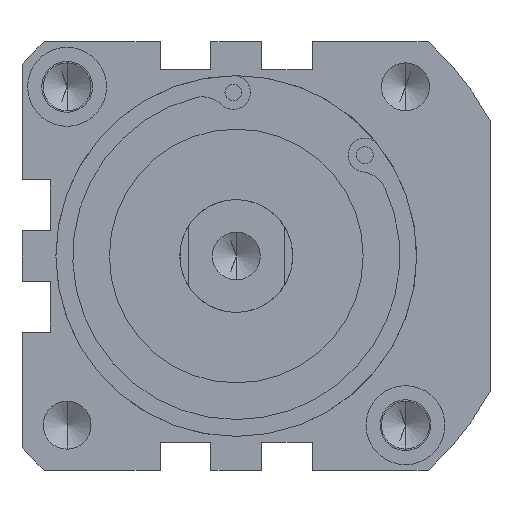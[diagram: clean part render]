
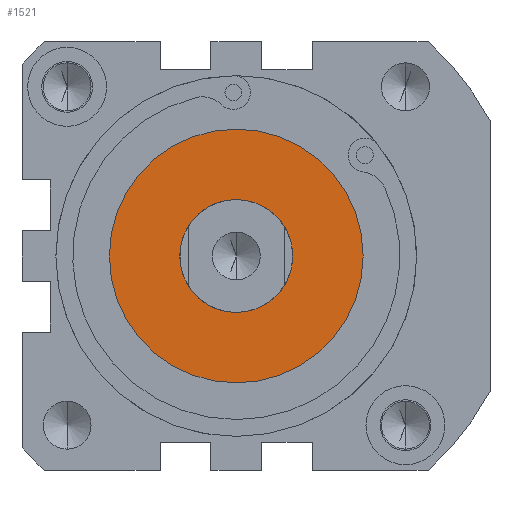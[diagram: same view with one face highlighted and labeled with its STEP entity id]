
A CAD part, front view. The second image highlights one B-rep face of the part: STEP entity #1521.
In plain terms, the highlighted planar face has unit normal (0, -1, 0) as drawn and (0, 1, 0) by its records, which use the part's own axes.
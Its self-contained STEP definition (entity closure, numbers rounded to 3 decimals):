
#5 = CARTESIAN_POINT ( 'NONE',  ( 0., 0., -10. ) ) ;
#156 = ORIENTED_EDGE ( 'NONE', *, *, #3083, .T. ) ;
#160 = CARTESIAN_POINT ( 'NONE',  ( 0., 0., 0. ) ) ;
#383 = DIRECTION ( 'NONE',  ( 0., 1., 0. ) ) ;
#421 = DIRECTION ( 'NONE',  ( 0., 0., 1. ) ) ;
#465 = EDGE_CURVE ( 'NONE', #807, #1816, #3353, .T. ) ;
#495 = CIRCLE ( 'NONE', #1092, 10. ) ;
#509 = CARTESIAN_POINT ( 'NONE',  ( 0., 0., 0. ) ) ;
#588 = CARTESIAN_POINT ( 'NONE',  ( 0., 0., -22.5 ) ) ;
#632 = CARTESIAN_POINT ( 'NONE',  ( 0., 0., 0. ) ) ;
#665 = EDGE_LOOP ( 'NONE', ( #3508, #1481 ) ) ;
#806 = DIRECTION ( 'NONE',  ( 0., 0., 1. ) ) ;
#807 = VERTEX_POINT ( 'NONE', #917 ) ;
#856 = FACE_OUTER_BOUND ( 'NONE', #1085, .T. ) ;
#917 = CARTESIAN_POINT ( 'NONE',  ( 0., 0., 10. ) ) ;
#974 = ORIENTED_EDGE ( 'NONE', *, *, #1952, .T. ) ;
#1000 = CIRCLE ( 'NONE', #1478, 22.5 ) ;
#1053 = CARTESIAN_POINT ( 'NONE',  ( 0., 0., 0. ) ) ;
#1085 = EDGE_LOOP ( 'NONE', ( #974, #156 ) ) ;
#1092 = AXIS2_PLACEMENT_3D ( 'NONE', #1407, #3271, #1922 ) ;
#1322 = AXIS2_PLACEMENT_3D ( 'NONE', #160, #2053, #421 ) ;
#1400 = CARTESIAN_POINT ( 'NONE',  ( 0., 0., 22.5 ) ) ;
#1407 = CARTESIAN_POINT ( 'NONE',  ( 0., 0., 0. ) ) ;
#1434 = DIRECTION ( 'NONE',  ( 0., 0., 1. ) ) ;
#1478 = AXIS2_PLACEMENT_3D ( 'NONE', #632, #383, #1434 ) ;
#1481 = ORIENTED_EDGE ( 'NONE', *, *, #465, .F. ) ;
#1521 = ADVANCED_FACE ( 'NONE', ( #856, #3443 ), #1589, .T. ) ;
#1570 = DIRECTION ( 'NONE',  ( 0., 1., 0. ) ) ;
#1589 = PLANE ( 'NONE',  #1764 ) ;
#1764 = AXIS2_PLACEMENT_3D ( 'NONE', #509, #1570, #3154 ) ;
#1816 = VERTEX_POINT ( 'NONE', #5 ) ;
#1922 = DIRECTION ( 'NONE',  ( 0., 0., 1. ) ) ;
#1952 = EDGE_CURVE ( 'NONE', #3020, #3036, #2411, .T. ) ;
#2053 = DIRECTION ( 'NONE',  ( 0., 1., 0. ) ) ;
#2129 = EDGE_CURVE ( 'NONE', #1816, #807, #495, .T. ) ;
#2409 = DIRECTION ( 'NONE',  ( 0., 1., 0. ) ) ;
#2411 = CIRCLE ( 'NONE', #1322, 22.5 ) ;
#2581 = AXIS2_PLACEMENT_3D ( 'NONE', #1053, #2409, #806 ) ;
#3020 = VERTEX_POINT ( 'NONE', #1400 ) ;
#3036 = VERTEX_POINT ( 'NONE', #588 ) ;
#3083 = EDGE_CURVE ( 'NONE', #3036, #3020, #1000, .T. ) ;
#3154 = DIRECTION ( 'NONE',  ( 0., 0., 1. ) ) ;
#3271 = DIRECTION ( 'NONE',  ( 0., 1., 0. ) ) ;
#3353 = CIRCLE ( 'NONE', #2581, 10. ) ;
#3443 = FACE_BOUND ( 'NONE', #665, .T. ) ;
#3508 = ORIENTED_EDGE ( 'NONE', *, *, #2129, .F. ) ;
